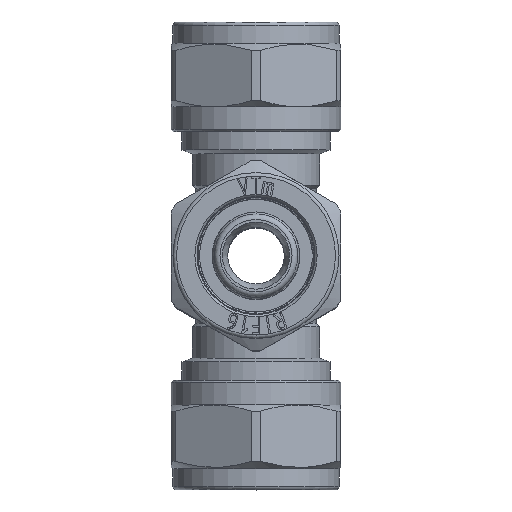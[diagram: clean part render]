
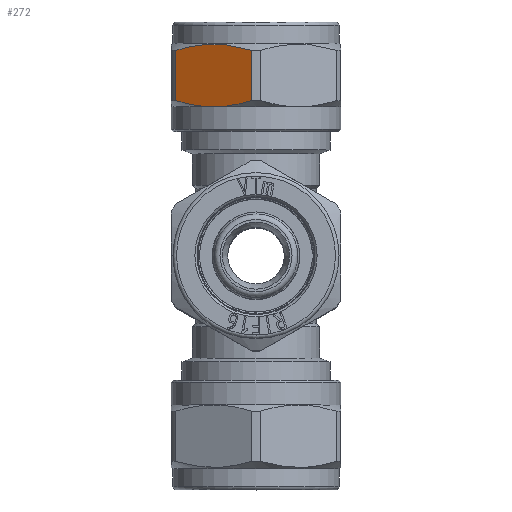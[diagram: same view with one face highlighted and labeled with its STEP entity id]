
A CAD part, top view. The second image highlights one B-rep face of the part: STEP entity #272.
In plain terms, the highlighted planar face has unit normal (-0.5, 0, 0.866).
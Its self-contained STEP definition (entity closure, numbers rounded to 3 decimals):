
#272=ADVANCED_FACE('',(#3200),#3202,.T.);
#3200=FACE_BOUND('',#3201,.T.);
#3201=EDGE_LOOP('',(#11841,#11842,#11843,#11844,#11845));
#3202=PLANE('',#3203);
#3203=AXIS2_PLACEMENT_3D('',#3204,#3205,#3206);
#3204=CARTESIAN_POINT('',(-12.,21.106,6.928));
#3205=DIRECTION('',(-0.5,0.,0.866));
#3206=DIRECTION('',(0.866,0.,0.5));
#11841=ORIENTED_EDGE('',*,*,#19836,.T.);
#11842=ORIENTED_EDGE('',*,*,#19837,.T.);
#11843=ORIENTED_EDGE('',*,*,#19060,.T.);
#11844=ORIENTED_EDGE('',*,*,#19056,.T.);
#11845=ORIENTED_EDGE('',*,*,#19838,.T.);
#19056=EDGE_CURVE('',#22396,#22606,#22607,.T.);
#19060=EDGE_CURVE('',#22613,#22396,#22614,.T.);
#19836=EDGE_CURVE('',#24092,#24093,#24094,.T.);
#19837=EDGE_CURVE('',#24093,#22613,#24095,.F.);
#19838=EDGE_CURVE('',#22606,#24092,#24096,.T.);
#22396=VERTEX_POINT('',#28359);
#22606=VERTEX_POINT('',#29422);
#22607=B_SPLINE_CURVE_WITH_KNOTS('',3,
(#29423,#29424,#29425,#29426,#29427,#29428,#29429,#29430,#29431,#29432,#29433,#29434,
#29435,#29436,#29437,#29438,#29439,#29440,#29441,#29442,#29443),
.UNSPECIFIED.,.F.,.F.,
(4,1,1,1,1,1,1,1,1,1,1,1,1,1,1,1,1,1,4),
(0.,0.043,0.085,0.127,0.168,0.209,
0.249,0.288,0.325,0.362,0.4,
0.44,0.492,0.553,0.62,0.691,
0.776,0.882,1.),
.UNSPECIFIED.);
#22613=VERTEX_POINT('',#29498);
#22614=B_SPLINE_CURVE_WITH_KNOTS('',3,
(#29499,#29500,#29501,#29502,#29503,#29504,#29505,#29506,#29507,#29508,#29509,#29510,
#29511,#29512,#29513,#29514,#29515,#29516,#29517,#29518,#29519,#29520),
.UNSPECIFIED.,.F.,.F.,
(4,1,1,1,1,1,1,1,1,1,1,1,1,1,1,1,1,1,1,4),
(0.,0.086,0.176,0.268,0.357,0.425,
0.474,0.509,0.544,0.582,0.62,
0.66,0.7,0.741,0.783,0.826,
0.869,0.912,0.956,1.),
.UNSPECIFIED.);
#24092=VERTEX_POINT('',#33655);
#24093=VERTEX_POINT('',#33656);
#24094=B_SPLINE_CURVE_WITH_KNOTS('',3,
(#33657,#33658,#33659,#33660,#33661,#33662,#33663,#33664,#33665,#33666,#33667,#33668,
#33669,#33670,#33671,#33672,#33673,#33674,#33675,#33676,#33677,#33678,#33679,#33680,
#33681,#33682,#33683,#33684,#33685,#33686,#33687,#33688,#33689,#33690,#33691,#33692,
#33693,#33694,#33695,#33696,#33697,#33698,#33699,#33700),
.UNSPECIFIED.,.F.,.F.,
(4,1,1,1,1,1,1,1,1,1,1,1,1,1,1,1,1,1,1,1,1,1,1,1,1,1,1,1,1,1,1,1,1,1,1,1,1,1,1,1,
1,4),
(0.,0.011,0.022,0.034,0.045,
0.057,0.074,0.091,0.109,0.123,
0.138,0.154,0.17,0.198,0.244,
0.311,0.372,0.42,0.451,0.48,
0.5,0.506,0.533,0.56,0.587,
0.614,0.641,0.668,0.694,0.72,
0.745,0.77,0.795,0.819,0.842,
0.866,0.889,0.911,0.934,0.956,
0.978,1.),
.UNSPECIFIED.);
#24095=LINE('',#33701,#33702);
#24096=LINE('',#33704,#33705);
#28359=CARTESIAN_POINT('',(-6.,21.106,10.392));
#29422=CARTESIAN_POINT('',(-0.644,21.972,13.485));
#29423=CARTESIAN_POINT('',(-6.,21.106,10.392));
#29424=CARTESIAN_POINT('',(-5.923,21.106,10.437));
#29425=CARTESIAN_POINT('',(-5.769,21.107,10.526));
#29426=CARTESIAN_POINT('',(-5.54,21.113,10.658));
#29427=CARTESIAN_POINT('',(-5.312,21.121,10.789));
#29428=CARTESIAN_POINT('',(-5.088,21.132,10.919));
#29429=CARTESIAN_POINT('',(-4.867,21.147,11.046));
#29430=CARTESIAN_POINT('',(-4.652,21.164,11.17));
#29431=CARTESIAN_POINT('',(-4.444,21.183,11.291));
#29432=CARTESIAN_POINT('',(-4.24,21.205,11.408));
#29433=CARTESIAN_POINT('',(-4.039,21.228,11.525));
#29434=CARTESIAN_POINT('',(-3.833,21.255,11.644));
#29435=CARTESIAN_POINT('',(-3.599,21.288,11.778));
#29436=CARTESIAN_POINT('',(-3.326,21.331,11.936));
#29437=CARTESIAN_POINT('',(-3.003,21.388,12.123));
#29438=CARTESIAN_POINT('',(-2.649,21.456,12.327));
#29439=CARTESIAN_POINT('',(-2.251,21.542,12.557));
#29440=CARTESIAN_POINT('',(-1.788,21.652,12.824));
#29441=CARTESIAN_POINT('',(-1.243,21.795,13.139));
#29442=CARTESIAN_POINT('',(-0.851,21.909,13.365));
#29443=CARTESIAN_POINT('',(-0.644,21.972,13.485));
#29498=CARTESIAN_POINT('',(-11.356,21.972,7.3));
#29499=CARTESIAN_POINT('',(-11.356,21.972,7.3));
#29500=CARTESIAN_POINT('',(-11.206,21.926,7.387));
#29501=CARTESIAN_POINT('',(-10.897,21.835,7.565));
#29502=CARTESIAN_POINT('',(-10.425,21.706,7.838));
#29503=CARTESIAN_POINT('',(-9.946,21.587,8.114));
#29504=CARTESIAN_POINT('',(-9.504,21.488,8.369));
#29505=CARTESIAN_POINT('',(-9.137,21.414,8.581));
#29506=CARTESIAN_POINT('',(-8.867,21.365,8.737));
#29507=CARTESIAN_POINT('',(-8.653,21.328,8.861));
#29508=CARTESIAN_POINT('',(-8.461,21.298,8.972));
#29509=CARTESIAN_POINT('',(-8.262,21.268,9.086));
#29510=CARTESIAN_POINT('',(-8.055,21.24,9.206));
#29511=CARTESIAN_POINT('',(-7.842,21.214,9.329));
#29512=CARTESIAN_POINT('',(-7.625,21.19,9.454));
#29513=CARTESIAN_POINT('',(-7.403,21.169,9.582));
#29514=CARTESIAN_POINT('',(-7.176,21.15,9.713));
#29515=CARTESIAN_POINT('',(-6.946,21.134,9.846));
#29516=CARTESIAN_POINT('',(-6.712,21.122,9.981));
#29517=CARTESIAN_POINT('',(-6.476,21.113,10.118));
#29518=CARTESIAN_POINT('',(-6.238,21.108,10.255));
#29519=CARTESIAN_POINT('',(-6.079,21.106,10.346));
#29520=CARTESIAN_POINT('',(-6.,21.106,10.392));
#33655=CARTESIAN_POINT('',(-0.644,29.096,13.485));
#33656=CARTESIAN_POINT('',(-11.356,29.096,7.3));
#33657=CARTESIAN_POINT('',(-0.644,29.096,13.485));
#33658=CARTESIAN_POINT('',(-0.682,29.108,13.462));
#33659=CARTESIAN_POINT('',(-0.76,29.131,13.418));
#33660=CARTESIAN_POINT('',(-0.877,29.166,13.35));
#33661=CARTESIAN_POINT('',(-0.997,29.201,13.281));
#33662=CARTESIAN_POINT('',(-1.12,29.236,13.21));
#33663=CARTESIAN_POINT('',(-1.261,29.276,13.128));
#33664=CARTESIAN_POINT('',(-1.423,29.32,13.035));
#33665=CARTESIAN_POINT('',(-1.605,29.368,12.93));
#33666=CARTESIAN_POINT('',(-1.779,29.413,12.829));
#33667=CARTESIAN_POINT('',(-1.945,29.453,12.733));
#33668=CARTESIAN_POINT('',(-2.104,29.491,12.642));
#33669=CARTESIAN_POINT('',(-2.27,29.53,12.546));
#33670=CARTESIAN_POINT('',(-2.484,29.577,12.422));
#33671=CARTESIAN_POINT('',(-2.807,29.644,12.236));
#33672=CARTESIAN_POINT('',(-3.309,29.737,11.946));
#33673=CARTESIAN_POINT('',(-3.931,29.831,11.587));
#33674=CARTESIAN_POINT('',(-4.562,29.9,11.223));
#33675=CARTESIAN_POINT('',(-5.068,29.936,10.931));
#33676=CARTESIAN_POINT('',(-5.459,29.954,10.705));
#33677=CARTESIAN_POINT('',(-5.75,29.961,10.537));
#33678=CARTESIAN_POINT('',(-5.95,29.962,10.421));
#33679=CARTESIAN_POINT('',(-6.142,29.962,10.31));
#33680=CARTESIAN_POINT('',(-6.359,29.959,10.185));
#33681=CARTESIAN_POINT('',(-6.651,29.949,10.017));
#33682=CARTESIAN_POINT('',(-6.944,29.934,9.847));
#33683=CARTESIAN_POINT('',(-7.237,29.914,9.678));
#33684=CARTESIAN_POINT('',(-7.528,29.888,9.51));
#33685=CARTESIAN_POINT('',(-7.816,29.858,9.344));
#33686=CARTESIAN_POINT('',(-8.098,29.823,9.181));
#33687=CARTESIAN_POINT('',(-8.377,29.784,9.02));
#33688=CARTESIAN_POINT('',(-8.649,29.741,8.863));
#33689=CARTESIAN_POINT('',(-8.917,29.695,8.708));
#33690=CARTESIAN_POINT('',(-9.179,29.646,8.557));
#33691=CARTESIAN_POINT('',(-9.437,29.594,8.408));
#33692=CARTESIAN_POINT('',(-9.689,29.539,8.262));
#33693=CARTESIAN_POINT('',(-9.939,29.482,8.118));
#33694=CARTESIAN_POINT('',(-10.183,29.422,7.977));
#33695=CARTESIAN_POINT('',(-10.423,29.361,7.838));
#33696=CARTESIAN_POINT('',(-10.66,29.298,7.702));
#33697=CARTESIAN_POINT('',(-10.894,29.233,7.567));
#33698=CARTESIAN_POINT('',(-11.126,29.165,7.433));
#33699=CARTESIAN_POINT('',(-11.28,29.119,7.344));
#33700=CARTESIAN_POINT('',(-11.356,29.096,7.3));
#33701=CARTESIAN_POINT('',(-11.356,21.972,7.3));
#33702=VECTOR('',#33703,1.);
#33703=DIRECTION('',(0.,1.,0.));
#33704=CARTESIAN_POINT('',(-0.644,21.972,13.485));
#33705=VECTOR('',#33706,1.);
#33706=DIRECTION('',(0.,1.,0.));
